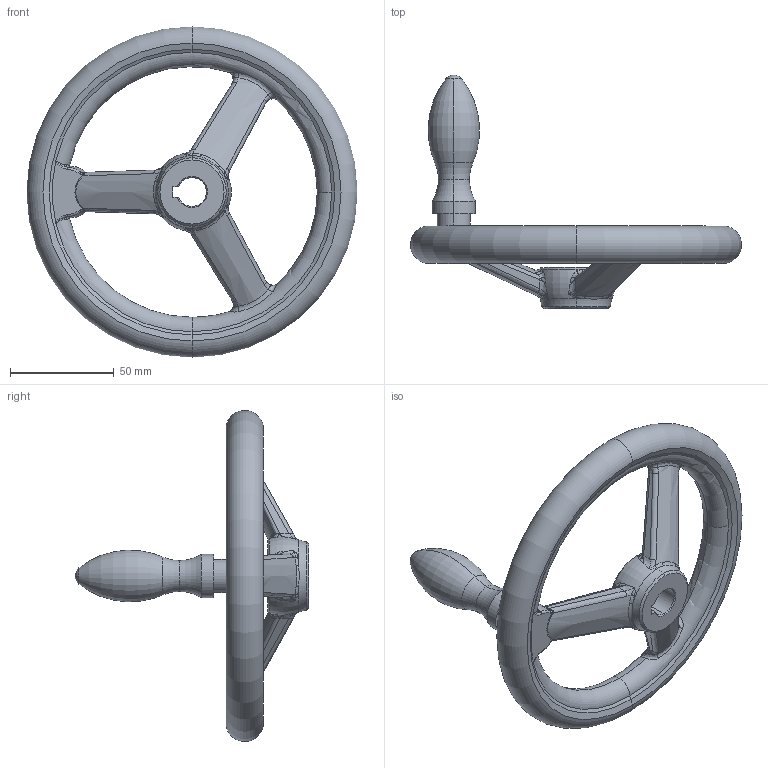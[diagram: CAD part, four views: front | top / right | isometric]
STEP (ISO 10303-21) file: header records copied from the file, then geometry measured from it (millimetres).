
FILE_DESCRIPTION (( 'STEP AP203' ), '1' );
FILE_NAME ('din950_d3_160x14.step', '2010-03-23T10:05:30', ( '_' ), ( '_' ), 'SwSTEP 2.0', 'SolidWorks 2010', '' );
FILE_SCHEMA (( 'CONFIG_CONTROL_DESIGN' ));
Length unit declared in the file: millimetre
Products named in the file (1): din950_d3_160x14
Bounding box: 159.93 x 113 x 159.93 mm (x, y, z)
Volume: 180738.3 mm3; surface area: 41406.1 mm2
Topology: 1 solids, 1 shells, 218 faces, 532 edges, 288 vertices
Faces by surface type: bspline 142, torus 30, cone 18, plane 14, cylinder 12, sphere 2
Entity records: 25858 total; most frequent: CARTESIAN_POINT 21669, ORIENTED_EDGE 1016, DIRECTION 596, EDGE_CURVE 508, VERTEX_POINT 288, AXIS2_PLACEMENT_3D 280, B_SPLINE_CURVE_WITH_KNOTS 265, EDGE_LOOP 222
